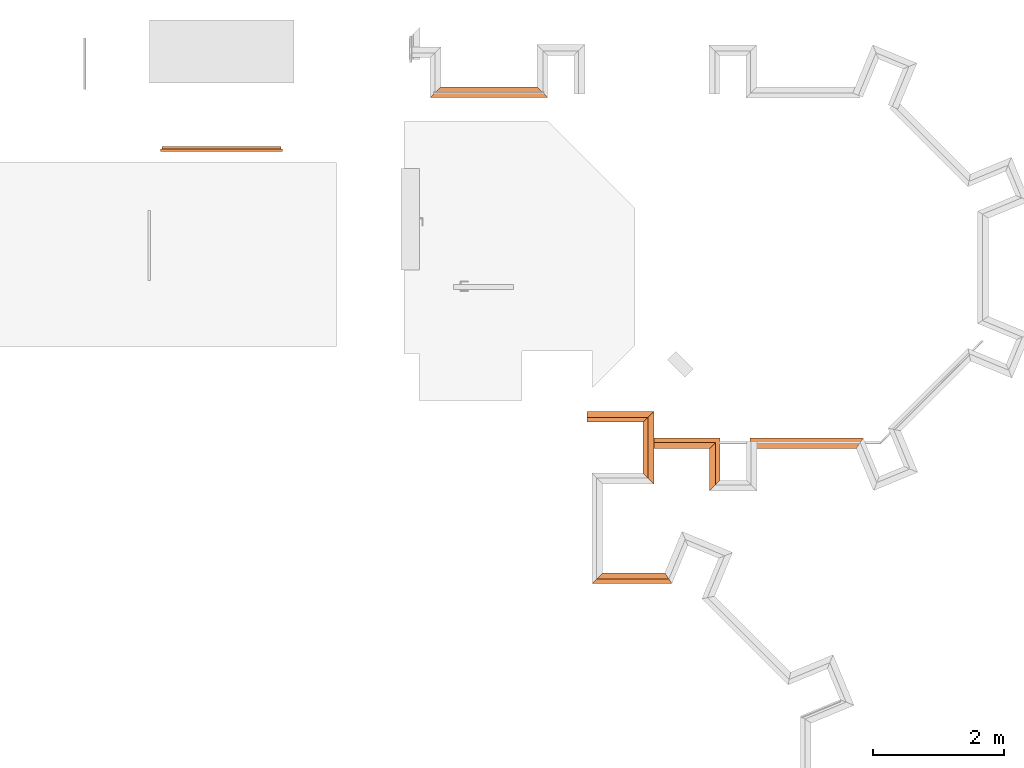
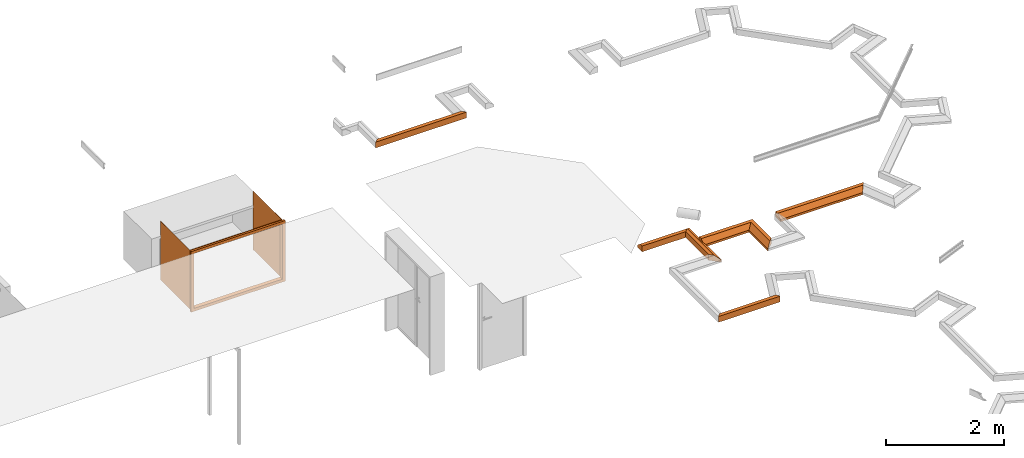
# One storey, part 5 of 9: 7 proxies.
"""IFC2X3 building model written with IfcOpenShell, lengths in metres."""

import ifcopenshell
import ifcopenshell.guid

model = None  # the IFC model being written
_history = None  # IfcOwnerHistory: only IFC2X3 demands one
_inside = {}  # id of a spatial element -> (the spatial element, [elements in it])
_under = {}  # id of a project, library or spatial element -> (it, [spatial elements below it])
_declared = {}  # id of a project -> (the project, [libraries it declares])
_typed = {}  # id of a type object -> (the type object, [elements of that type])
_made_of = {}  # id of a material, layer set ... -> (it, [elements and type objects made of it])


def new_model(schema):
    """Start an empty IFC model of exactly this schema.

    Asked for "IFC4X3", IfcOpenShell would pick the latest addendum, in which some entities
    have other attributes; the version numbers below select the first issue.
    IFC2X3 requires an IfcOwnerHistory on every rooted entity: one is made here for all.
    """
    global model, _history
    if schema == "IFC4X3":
        model = ifcopenshell.file(schema_version=(4, 3, 0, 0))
    else:
        model = ifcopenshell.file(schema=schema)
    _inside.clear()
    _under.clear()
    _declared.clear()
    _typed.clear()
    _made_of.clear()
    _history = None
    if model.schema == "IFC2X3":
        org = make("IfcOrganization", Name="unknown")
        user = make(
            "IfcPersonAndOrganization",
            ThePerson=make("IfcPerson", FamilyName="unknown"),
            TheOrganization=org,
        )
        app = make(
            "IfcApplication",
            ApplicationDeveloper=org,
            Version="unknown",
            ApplicationFullName="unknown",
            ApplicationIdentifier="unknown",
        )
        _history = make(
            "IfcOwnerHistory",
            OwningUser=user,
            OwningApplication=app,
            ChangeAction="ADDED",
            CreationDate=0,
        )
    return model


def make(cls, **values):
    """One entity of the class cls with the attributes given. An attribute that is None is left unset."""
    return model.create_entity(
        cls, **{name: value for name, value in values.items() if value is not None}
    )


def entity(cls, *values):
    """Any entity or typed value of the class cls, its attributes in the order of the schema. None: left unset."""
    e = model.create_entity(cls)
    for i, value in enumerate(values):
        if value is not None:
            e[i] = value
    return e


def rooted(cls, **values):
    """An entity with a GlobalId (a new one), such as an element, a storey or a relation."""
    return make(cls, GlobalId=ifcopenshell.guid.new(), OwnerHistory=_history, **values)


def si_unit(unit_type, name, prefix=None):
    """IfcSIUnit, for example si_unit("LENGTHUNIT", "METRE", prefix="MILLI")."""
    return make("IfcSIUnit", UnitType=unit_type, Prefix=prefix, Name=name)


def converted_unit(unit_type, name, factor, base, dimensions=None, offset=None):
    """IfcConversionBasedUnit, such as the inch: factor (a typed value) times the base unit."""
    return make(
        "IfcConversionBasedUnit"
        if offset is None
        else "IfcConversionBasedUnitWithOffset",
        ConversionOffset=offset,
        Dimensions=None
        if dimensions is None
        else entity("IfcDimensionalExponents", *dimensions),
        UnitType=unit_type,
        Name=name,
        ConversionFactor=make(
            "IfcMeasureWithUnit", ValueComponent=factor, UnitComponent=base
        ),
    )


def derived_unit(unit_type, elements):
    """IfcDerivedUnit: a product of units, each with its exponent."""
    return make(
        "IfcDerivedUnit",
        Elements=[
            make("IfcDerivedUnitElement", Unit=unit, Exponent=power)
            for unit, power in elements
        ],
        UnitType=unit_type,
    )


def assignment(units):
    """IfcUnitAssignment: the units of a project."""
    return None if units is None else make("IfcUnitAssignment", Units=units)


def point(xyz):
    """IfcCartesianPoint."""
    return None if xyz is None else make("IfcCartesianPoint", Coordinates=xyz)


def direction(xyz):
    """IfcDirection."""
    return None if xyz is None else make("IfcDirection", DirectionRatios=xyz)


def frame(location, z_axis=None, x_axis=None):
    """IfcAxis2Placement3D, a coordinate frame: its origin and axes. An axis left out is left unset."""
    return make(
        "IfcAxis2Placement3D",
        Location=point(location),
        Axis=direction(z_axis),
        RefDirection=direction(x_axis),
    )


def origin():
    """The frame at (0, 0, 0) with its axes left unset."""
    return frame((0.0, 0.0, 0.0))


def place(relative_to, where):
    """IfcLocalPlacement: puts the frame where relative to a parent placement (None: the world)."""
    return make(
        "IfcLocalPlacement", PlacementRelTo=relative_to, RelativePlacement=where
    )


def context(
    kind, dimensions, precision=None, world=None, true_north=None, identifier=None
):
    """IfcGeometricRepresentationContext, for example the 3D "Model" context."""
    return make(
        "IfcGeometricRepresentationContext",
        ContextIdentifier=identifier,
        ContextType=kind,
        CoordinateSpaceDimension=dimensions,
        Precision=precision,
        WorldCoordinateSystem=world,
        TrueNorth=true_north,
    )


def subcontext(parent, identifier, kind, view, scale=None):
    """IfcGeometricRepresentationSubContext, for example "Body" below "Model"."""
    return make(
        "IfcGeometricRepresentationSubContext",
        ContextIdentifier=identifier,
        ContextType=kind,
        ParentContext=parent,
        TargetScale=scale,
        TargetView=view,
    )


def project(units=None, contexts=None):
    """IfcProject with its units and contexts."""
    return rooted(
        "IfcProject",
        Name="project",
        RepresentationContexts=contexts,
        UnitsInContext=assignment(units),
    )


def spatial(cls, under=None, at=None, **own):
    """A site, building, storey or space (cls), placed at a placement, below another one or the project."""
    s = rooted(cls, ObjectPlacement=at, **own)
    if under is not None:
        _under.setdefault(under.id(), (under, []))[1].append(s)
    return s


def faces_of(points, faces, orient=None, outer=None):
    """IfcFace entities. A face is a list of loops; a loop is a list of indices into points, from 0.

    orient and outer hold one flag for each loop. By default every Orientation is true, the
    first loop of a face is its IfcFaceOuterBound and the others are IfcFaceBound.
    """
    made = []
    for i, loops in enumerate(faces):
        bounds = []
        for j, loop in enumerate(loops):
            is_outer = j == 0 if outer is None else outer[i][j]
            bounds.append(
                make(
                    "IfcFaceOuterBound" if is_outer else "IfcFaceBound",
                    Bound=make("IfcPolyLoop", Polygon=[points[k] for k in loop]),
                    Orientation=True if orient is None else orient[i][j],
                )
            )
        made.append(make("IfcFace", Bounds=bounds))
    return made


def faceted_brep(points, faces, orient=None, outer=None, voids=None):
    """IfcFacetedBrep: a solid bounded by flat faces; with voids (closed shells), ...WithVoids."""
    shared = [point(p) for p in points]
    hull = make("IfcClosedShell", CfsFaces=faces_of(shared, faces, orient, outer))
    if voids is None:
        return make("IfcFacetedBrep", Outer=hull)
    return make(
        "IfcFacetedBrepWithVoids",
        Outer=hull,
        Voids=[
            make(cls, CfsFaces=faces_of(shared, fs, o, b)) for cls, fs, o, b in voids
        ],
    )


def shape(context_of_items, identifier, shape_type, items):
    """IfcShapeRepresentation: the items that make up one representation, for example the "Body"."""
    return make(
        "IfcShapeRepresentation",
        ContextOfItems=context_of_items,
        RepresentationIdentifier=identifier,
        RepresentationType=shape_type,
        Items=items,
    )


def source(mapping_origin, context_of_items, identifier, shape_type, items):
    """IfcRepresentationMap: a shape defined once, which mapped items show again and again."""
    return make(
        "IfcRepresentationMap",
        MappingOrigin=mapping_origin,
        MappedRepresentation=shape(context_of_items, identifier, shape_type, items),
    )


def transform(
    local_origin,
    x_axis=None,
    y_axis=None,
    z_axis=None,
    scale=None,
    scale2=None,
    scale3=None,
    uniform=True,
):
    """IfcCartesianTransformationOperator3D, or its non-uniform kind. x_axis, y_axis, z_axis: its Axis1, 2, 3."""
    if uniform:
        return make(
            "IfcCartesianTransformationOperator3D",
            Axis1=direction(x_axis),
            Axis2=direction(y_axis),
            LocalOrigin=point(local_origin),
            Scale=scale,
            Axis3=direction(z_axis),
        )
    return make(
        "IfcCartesianTransformationOperator3DnonUniform",
        Axis1=direction(x_axis),
        Axis2=direction(y_axis),
        LocalOrigin=point(local_origin),
        Scale=scale,
        Axis3=direction(z_axis),
        Scale2=scale2,
        Scale3=scale3,
    )


def mapped(mapping_source, mapping_target):
    """IfcMappedItem: shows the shape of a source again, moved by a transform."""
    return make(
        "IfcMappedItem", MappingSource=mapping_source, MappingTarget=mapping_target
    )


def material(Name=None, Category=None):
    """IfcMaterial."""
    return make("IfcMaterial", Name=Name, Category=Category)


def material_list(materials):
    """IfcMaterialList."""
    return make("IfcMaterialList", Materials=materials)


def made_of(thing, what):
    """Note that an element or type object is made of a material, layer set ...; save() writes the relation."""
    if what is not None:
        _made_of.setdefault(what.id(), (what, []))[1].append(thing)
    return thing


def type_object(cls, material=None, **own):
    """A type object (cls), such as IfcWallType, which elements share."""
    return made_of(rooted(cls, **own), material)


def type_shapes(of_type, sources):
    """Give a type object the sources (RepresentationMaps) that its elements show as mapped items."""
    of_type.RepresentationMaps = sources


def element(
    cls,
    number,
    at=None,
    inside=None,
    cuts=None,
    type_object=None,
    material=None,
    context=None,
    identifier="Body",
    shape_type=None,
    held_by="IfcProductDefinitionShape",
    body=None,
    shapes=None,
    **own,
):
    """One element of the class cls, such as IfcWall. Its Tag is "e" and its number.

    at: its placement. inside: the storey or other place that contains it. cuts: it is an
    opening in that element (IfcRelVoidsElement). A single representation is given by context,
    identifier, shape_type and body (its items); several are given by shapes. held_by: the class
    of the entity that holds the representations. save() writes the other relations.
    """
    e = rooted(cls, Tag="e%d" % number, ObjectPlacement=at, **own)
    if body is not None:
        shapes = [shape(context, identifier, shape_type, body)]
    if shapes is not None:
        e.Representation = make(held_by, Representations=shapes)
    if inside is not None:
        _inside.setdefault(inside.id(), (inside, []))[1].append(e)
    if cuts is not None:
        rooted(
            "IfcRelVoidsElement", RelatingBuildingElement=cuts, RelatedOpeningElement=e
        )
    if type_object is not None:
        _typed.setdefault(type_object.id(), (type_object, []))[1].append(e)
    return made_of(e, material)


def aggregate(whole, parts):
    """IfcRelAggregates: a whole, such as a stair, and the parts it consists of."""
    return rooted("IfcRelAggregates", RelatingObject=whole, RelatedObjects=parts)


def save(model, path):
    """Write the relations noted so far, then the file.

    IfcRelAggregates (storeys below a building ...), IfcRelContainedInSpatialStructure (elements
    in a storey), IfcRelDefinesByType, IfcRelAssociatesMaterial and IfcRelDeclares: one each for
    every whole, place, type object, material and project.
    """
    for whole, parts in _under.values():
        aggregate(whole, parts)
    for where, things in _inside.values():
        rooted(
            "IfcRelContainedInSpatialStructure",
            RelatedElements=things,
            RelatingStructure=where,
        )
    for kind, things in _typed.values():
        rooted("IfcRelDefinesByType", RelatedObjects=things, RelatingType=kind)
    for what, things in _made_of.values():
        rooted("IfcRelAssociatesMaterial", RelatedObjects=things, RelatingMaterial=what)
    for by, libraries in _declared.values():
        rooted("IfcRelDeclares", RelatingContext=by, RelatedDefinitions=libraries)
    model.write(path)


model = new_model("IFC2X3")

# Units and contexts
model_context = context("Model", 3, precision=1e-05, world=origin(), true_north=direction((6.12303176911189e-17, 1.0)))
plan_context = context("Plan", 3, precision=1e-05, world=origin(), true_north=direction((6.12303176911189e-17, 1.0)))
body_context = subcontext(model_context, "Body", "Model", "MODEL_VIEW")
ifc_project = project(units=[si_unit("LENGTHUNIT", "METRE"), si_unit("AREAUNIT", "SQUARE_METRE"), si_unit("VOLUMEUNIT", "CUBIC_METRE"), converted_unit("PLANEANGLEUNIT", "DEGREE", entity("IfcRatioMeasure", 0.0174532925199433), si_unit("PLANEANGLEUNIT", "RADIAN"), dimensions=[0, 0, 0, 0, 0, 0, 0]), si_unit("MASSUNIT", "GRAM", prefix="KILO"), derived_unit("MASSDENSITYUNIT", [(si_unit("MASSUNIT", "GRAM", prefix="KILO"), 1), (si_unit("LENGTHUNIT", "METRE"), -3)]), derived_unit("MOMENTOFINERTIAUNIT", [(si_unit("LENGTHUNIT", "METRE"), 4)]), si_unit("TIMEUNIT", "SECOND"), si_unit("FREQUENCYUNIT", "HERTZ"), si_unit("THERMODYNAMICTEMPERATUREUNIT", "DEGREE_CELSIUS"), derived_unit("THERMALTRANSMITTANCEUNIT", [(si_unit("MASSUNIT", "GRAM", prefix="KILO"), 1), (si_unit("THERMODYNAMICTEMPERATUREUNIT", "KELVIN"), -1), (si_unit("TIMEUNIT", "SECOND"), -3)]), derived_unit("VOLUMETRICFLOWRATEUNIT", [(si_unit("LENGTHUNIT", "METRE"), 3), (si_unit("TIMEUNIT", "SECOND"), -1)]), derived_unit("MASSFLOWRATEUNIT", [(si_unit("MASSUNIT", "GRAM", prefix="KILO"), 1), (si_unit("TIMEUNIT", "SECOND"), -1)]), derived_unit("ROTATIONALFREQUENCYUNIT", [(si_unit("TIMEUNIT", "SECOND"), -1)]), si_unit("ELECTRICCURRENTUNIT", "AMPERE"), si_unit("ELECTRICVOLTAGEUNIT", "VOLT"), si_unit("POWERUNIT", "WATT"), si_unit("FORCEUNIT", "NEWTON", prefix="KILO"), si_unit("ILLUMINANCEUNIT", "LUX"), si_unit("LUMINOUSFLUXUNIT", "LUMEN"), si_unit("LUMINOUSINTENSITYUNIT", "CANDELA"), derived_unit("USERDEFINED", [(si_unit("MASSUNIT", "GRAM", prefix="KILO"), -1), (si_unit("LENGTHUNIT", "METRE"), -2), (si_unit("TIMEUNIT", "SECOND"), 3), (si_unit("LUMINOUSFLUXUNIT", "LUMEN"), 1)]), derived_unit("SOUNDPOWERUNIT", [(si_unit("MASSUNIT", "GRAM", prefix="KILO"), 1), (si_unit("LENGTHUNIT", "METRE"), 2), (si_unit("TIMEUNIT", "SECOND"), -3)]), derived_unit("SOUNDPRESSUREUNIT", [(si_unit("MASSUNIT", "GRAM", prefix="KILO"), 1), (si_unit("LENGTHUNIT", "METRE"), -1), (si_unit("TIMEUNIT", "SECOND"), -2)]), derived_unit("LINEARVELOCITYUNIT", [(si_unit("LENGTHUNIT", "METRE"), 1), (si_unit("TIMEUNIT", "SECOND"), -1)]), si_unit("PRESSUREUNIT", "PASCAL"), derived_unit("USERDEFINED", [(si_unit("LENGTHUNIT", "METRE"), -2), (si_unit("MASSUNIT", "GRAM", prefix="KILO"), 1), (si_unit("TIMEUNIT", "SECOND"), -2)]), derived_unit("LINEARFORCEUNIT", [(si_unit("MASSUNIT", "GRAM", prefix="KILO"), 1), (si_unit("LENGTHUNIT", "METRE"), 1), (si_unit("TIMEUNIT", "SECOND"), -2), (si_unit("LENGTHUNIT", "METRE"), -1)]), derived_unit("PLANARFORCEUNIT", [(si_unit("MASSUNIT", "GRAM", prefix="KILO"), 1), (si_unit("LENGTHUNIT", "METRE"), 1), (si_unit("TIMEUNIT", "SECOND"), -2), (si_unit("LENGTHUNIT", "METRE"), -2)])], contexts=[model_context, plan_context])

# Site, building, storey
site_placement = place(None, frame((-11.0823275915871, 23.8300534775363, 0.0)))
site = spatial("IfcSite", under=ifc_project, at=site_placement, Name="Default", CompositionType="ELEMENT")
building_placement = place(site_placement, origin())
building = spatial("IfcBuilding", under=site, at=building_placement, Name="Englische Kirche", CompositionType="ELEMENT")
storey_placement = place(building_placement, frame((0.0, 0.0, -3.07499999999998)))
storey = spatial("IfcBuildingStorey", under=building, at=storey_placement, Name="Ebene -1 Basement Phase 6", CompositionType="ELEMENT", Elevation=-3.07499999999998)

# Proxies
building_element_proxy_type_1 = type_object("IfcBuildingElementProxyType", Name="Profilierte Wand:plinth brick header", PredefinedType="NOTDEFINED")
proxy_1_placement = place(storey_placement, frame((21.6401330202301, 9.20240777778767, 2.97999999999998)))
element("IfcBuildingElementProxy", 1, at=proxy_1_placement, inside=storey, type_object=building_element_proxy_type_1, Name="Profilierte Wand:plinth brick header", ObjectType="Profilierte Wand:plinth brick header", context=body_context, shape_type="Brep", body=[
    faceted_brep([(1.04589963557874, 0.807669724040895, 0.12), (0.976127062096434, 0.7378971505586, 0.12), (0.883229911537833, 0.645000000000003, 0.0450000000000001), (0.883229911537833, 0.645000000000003, 0.0), (1.04589963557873, 0.807669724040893, 0.0), (0.0, 0.807669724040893, 0.12), (0.0, 0.807669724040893, 0.0), (0.0, 0.645000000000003, 0.0), (0.0, 0.645000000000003, 0.0450000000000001), (0.0, 0.737897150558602, 0.12)], [[[0, 1, 2, 3, 4]], [[5, 6, 7, 8, 9]], [[0, 4, 6, 5]], [[4, 3, 7, 6]], [[3, 2, 8, 7]], [[2, 1, 9, 8]], [[1, 0, 5, 9]]]),
    faceted_brep([(1.04589963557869, 0.16266972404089, 0.12), (0.976127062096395, 0.092897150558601, 0.12), (0.88322991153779, 0.0, 0.0450000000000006), (0.88322991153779, 0.0, 0.0), (1.04589963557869, 0.162669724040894, 0.0), (1.04589963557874, 0.807669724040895, 0.12), (1.04589963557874, 0.807669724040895, 0.0), (0.883229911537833, 0.645000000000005, 0.0), (0.883229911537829, 0.645000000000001, 0.0450000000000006), (0.976127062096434, 0.737897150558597, 0.12)], [[[0, 1, 2, 3, 4]], [[5, 6, 7, 8, 9]], [[0, 4, 6, 5]], [[4, 3, 7, 6]], [[3, 2, 8, 7]], [[2, 1, 9, 8]], [[1, 0, 5, 9]]]),
])
building_element_proxy_type_2 = type_object("IfcBuildingElementProxyType", Name="Profilierte Wand:plinth", PredefinedType="NOTDEFINED")
proxy_2_placement = place(storey_placement, frame((21.5151330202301, 9.31104921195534, 2.97999999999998)))
element("IfcBuildingElementProxy", 2, at=proxy_2_placement, inside=storey, type_object=building_element_proxy_type_2, Name="Profilierte Wand:plinth", ObjectType="Profilierte Wand:plinth", context=body_context, shape_type="Brep", body=[
    faceted_brep([(0.0, 0.162669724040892, 0.12), (0.0, 0.162669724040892, 0.0), (0.162669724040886, 0.0, 0.0), (0.16266972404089, 0.0, 0.0450000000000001), (0.0697725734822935, 0.0928971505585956, 0.12), (0.0, 0.942669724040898, 0.12), (0.0697725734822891, 1.01244229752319, 0.12), (0.162669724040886, 1.10533944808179, 0.0450000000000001), (0.162669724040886, 1.10533944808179, 0.0), (0.0, 0.942669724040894, 0.0)], [[[0, 1, 2, 3, 4]], [[5, 6, 7, 8, 9]], [[1, 0, 5, 9]], [[2, 1, 9, 8]], [[3, 2, 8, 7]], [[4, 3, 7, 6]], [[0, 4, 6, 5]]]),
])
building_element_proxy_type_3 = type_object("IfcBuildingElementProxyType", Name="Profilierte Wand:plinth", PredefinedType="NOTDEFINED")
proxy_3_placement = place(storey_placement, frame((20.660302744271, 10.2537189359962, 2.97999999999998)))
element("IfcBuildingElementProxy", 3, at=proxy_3_placement, inside=storey, type_object=building_element_proxy_type_3, Name="Profilierte Wand:plinth", ObjectType="Profilierte Wand:plinth", context=body_context, shape_type="Brep", body=[
    faceted_brep([(0.0, 0.0, 0.12), (0.0, 0.0697725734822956, 0.12), (0.0, 0.162669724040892, 0.0450000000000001), (0.0, 0.162669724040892, 0.0), (0.0, 0.0, 0.0), (0.854830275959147, 0.0, 0.12), (0.854830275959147, 0.0, 0.0), (1.01750000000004, 0.162669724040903, 0.0), (1.01750000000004, 0.162669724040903, 0.0450000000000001), (0.924602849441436, 0.0697725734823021, 0.12)], [[[0, 1, 2, 3, 4]], [[5, 6, 7, 8, 9]], [[1, 0, 5, 9]], [[2, 1, 9, 8]], [[3, 2, 8, 7]], [[4, 3, 7, 6]], [[0, 4, 6, 5]]]),
])
building_element_proxy_type_4 = type_object("IfcBuildingElementProxyType", Name="Profilierte Wand:plinth brick header", PredefinedType="NOTDEFINED")
proxy_4_placement = place(storey_placement, frame((18.2734573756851, 15.1907189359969, 2.97999999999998)))
element("IfcBuildingElementProxy", 4, at=proxy_4_placement, inside=storey, type_object=building_element_proxy_type_4, Name="Profilierte Wand:plinth brick header", ObjectType="Profilierte Wand:plinth brick header", context=body_context, shape_type="Brep", body=[
    faceted_brep([(1.78925000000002, 0.0, 0.12), (1.78925000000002, 0.0, 0.0), (1.62658027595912, 0.16266972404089, 0.0), (1.62658027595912, 0.16266972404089, 0.0450000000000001), (1.71947742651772, 0.0697725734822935, 0.12), (0.0, 0.0, 0.12), (0.0697725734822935, 0.0697725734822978, 0.12), (0.16266972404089, 0.162669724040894, 0.0450000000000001), (0.16266972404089, 0.162669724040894, 0.0), (0.0, 0.0, 0.0)], [[[0, 1, 2, 3, 4]], [[5, 6, 7, 8, 9]], [[1, 0, 5, 9]], [[2, 1, 9, 8]], [[3, 2, 8, 7]], [[4, 3, 7, 6]], [[0, 4, 6, 5]]]),
])
building_element_proxy_type_5 = type_object("IfcBuildingElementProxyType", Name="Profilierte Wand:plinth brick header", PredefinedType="NOTDEFINED")
proxy_5_placement = place(storey_placement, frame((23.1440326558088, 9.84740777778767, 2.97999999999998)))
element("IfcBuildingElementProxy", 5, at=proxy_5_placement, inside=storey, type_object=building_element_proxy_type_5, Name="Profilierte Wand:plinth brick header", ObjectType="Profilierte Wand:plinth brick header", context=body_context, shape_type="Brep", body=[
    faceted_brep([(0.0, 0.162669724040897, 0.12), (0.0, 0.162669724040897, 0.0), (0.0, 0.0, 0.0), (0.0, 0.0, 0.0450000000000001), (0.0, 0.0928971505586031, 0.12), (1.72308618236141, 0.16266972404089, 0.12), (1.67646563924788, 0.0928971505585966, 0.12), (1.61439374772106, 0.0, 0.0450000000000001), (1.61439374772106, 0.0, 0.0), (1.72308618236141, 0.16266972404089, 0.0)], [[[0, 1, 2, 3, 4]], [[5, 6, 7, 8, 9]], [[1, 0, 5, 9]], [[2, 1, 9, 8]], [[3, 2, 8, 7]], [[4, 3, 7, 6]], [[0, 4, 6, 5]]]),
])
ifc_material = material(Name="<Unnamed>")
ifc_material_list_1 = material_list([ifc_material, ifc_material, ifc_material])
ifc_material_list_2 = material_list([ifc_material, ifc_material, ifc_material])
building_element_proxy_type_6 = type_object("IfcBuildingElementProxyType", Name="basementWindow1:1810x1310", PredefinedType="NOTDEFINED", material=ifc_material_list_2)
shared_shape = source(origin(), body_context, "Body", "Brep", [
    faceted_brep([(1.834, 1.07, 1.23999999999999), (1.834, 0.0799999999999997, 1.23999999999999), (1.834, 0.0799999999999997, 0.0199999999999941), (1.834, 1.07, 0.0199999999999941), (1.832, 1.07, 1.23999999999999), (1.832, 1.07, 0.0199999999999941), (1.832, 0.0799999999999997, 0.0199999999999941), (1.832, 0.0799999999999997, 1.23999999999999)], [[[0, 1, 2, 3]], [[4, 5, 6, 7]], [[1, 0, 4, 7]], [[2, 1, 7, 6]], [[3, 2, 6, 5]], [[0, 3, 5, 4]]]),
    faceted_brep([(0.0219999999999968, 0.0799999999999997, 1.23999999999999), (0.0219999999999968, 0.0799999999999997, 0.0199999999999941), (0.0219999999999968, 1.07, 0.0199999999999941), (0.0219999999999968, 1.07, 1.23999999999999), (0.0199999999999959, 0.0799999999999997, 1.23999999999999), (0.0199999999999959, 1.07, 1.23999999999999), (0.0199999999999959, 1.07, 0.0199999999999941), (0.0199999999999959, 0.0799999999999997, 0.0199999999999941)], [[[0, 1, 2, 3]], [[4, 5, 6, 7]], [[1, 0, 4, 7]], [[2, 1, 7, 6]], [[3, 2, 6, 5]], [[0, 3, 5, 4]]]),
    faceted_brep([(0.0199999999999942, 0.0799999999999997, 1.23999999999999), (0.0199999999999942, 0.0399999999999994, 1.23999999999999), (1.83399999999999, 0.0399999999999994, 1.23999999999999), (1.83399999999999, 0.0799999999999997, 1.23999999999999), (0.059999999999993, 0.0, 1.19999999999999), (0.059999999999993, 0.0799999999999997, 1.19999999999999), (1.79399999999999, 0.0799999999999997, 1.19999999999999), (1.79399999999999, 0.0, 1.19999999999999), (0.0, 0.0399999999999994, 1.25999999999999), (0.0, 0.0, 1.25999999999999), (1.85399999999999, 0.0, 1.25999999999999), (1.85399999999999, 0.0399999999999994, 1.25999999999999), (1.83399999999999, 0.0399999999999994, 0.0199999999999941), (1.83399999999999, 0.0799999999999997, 0.0199999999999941), (1.79399999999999, 0.0799999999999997, 0.0599999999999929), (1.79399999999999, 0.0, 0.0599999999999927), (1.85399999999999, 0.0, 0.0), (1.85399999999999, 0.0399999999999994, 0.0), (0.0199999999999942, 0.0399999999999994, 0.019999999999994), (0.0199999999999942, 0.0799999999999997, 0.019999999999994), (0.059999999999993, 0.0799999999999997, 0.0599999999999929), (0.0599999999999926, 0.0, 0.0599999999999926), (0.0, 0.0, 0.0), (0.0, 0.0399999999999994, 0.0)], [[[0, 1, 2, 3]], [[4, 5, 6, 7]], [[8, 9, 10, 11]], [[3, 2, 12, 13]], [[7, 6, 14, 15]], [[11, 10, 16, 17]], [[13, 12, 18, 19]], [[15, 14, 20, 21]], [[17, 16, 22, 23]], [[11, 17, 23, 8], [1, 18, 12, 2]], [[19, 18, 1, 0]], [[3, 13, 19, 0], [5, 20, 14, 6]], [[21, 20, 5, 4]], [[7, 15, 21, 4], [9, 22, 16, 10]], [[23, 22, 9, 8]]], outer=[[True], [True], [True], [True], [True], [True], [True], [True], [True], [True, False], [True], [True, False], [True], [False, True], [True]]),
])
type_shapes(building_element_proxy_type_6, [shared_shape])
proxy_6_placement = place(storey_placement, frame((14.1704573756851, 14.3687189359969, 1.5)))
element("IfcBuildingElementProxy", 6, at=proxy_6_placement, inside=storey, type_object=building_element_proxy_type_6, material=ifc_material_list_1, Name="basementWindow1:1810x1310", ObjectType="basementWindow1:1810x1310", context=body_context, shape_type="MappedRepresentation", body=[
    mapped(shared_shape, transform((0.0, 0.0, 0.0), scale=1.0)),
])
building_element_proxy_type_7 = type_object("IfcBuildingElementProxyType", Name="Profilierte Wand:plinth", PredefinedType="NOTDEFINED")
proxy_7_placement = place(storey_placement, frame((20.7349547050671, 7.7939184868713, 2.97999999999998)))
element("IfcBuildingElementProxy", 7, at=proxy_7_placement, inside=storey, type_object=building_element_proxy_type_7, Name="Profilierte Wand:plinth", ObjectType="Profilierte Wand:plinth", context=body_context, shape_type="Brep", body=[
    faceted_brep([(1.21777179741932, 0.0, 0.12), (1.21777179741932, 0.0, 0.0), (1.10907936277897, 0.162669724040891, 0.0), (1.10907936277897, 0.162669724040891, 0.0449999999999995), (1.1711512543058, 0.0697725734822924, 0.119999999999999), (0.0, 0.0, 0.12), (0.0697725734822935, 0.0697725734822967, 0.119999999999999), (0.16266972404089, 0.162669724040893, 0.0449999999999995), (0.16266972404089, 0.162669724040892, 0.0), (0.0, 0.0, 0.0)], [[[0, 1, 2, 3, 4]], [[5, 6, 7, 8, 9]], [[1, 0, 5, 9]], [[2, 1, 9, 8]], [[3, 2, 8, 7]], [[4, 3, 7, 6]], [[0, 4, 6, 5]]]),
])

save(model, "model.ifc")
